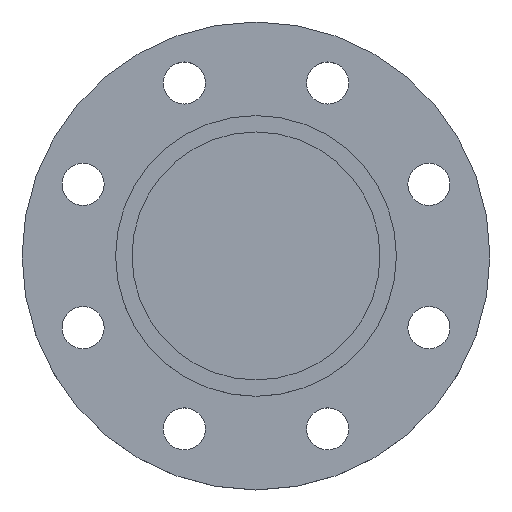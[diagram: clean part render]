
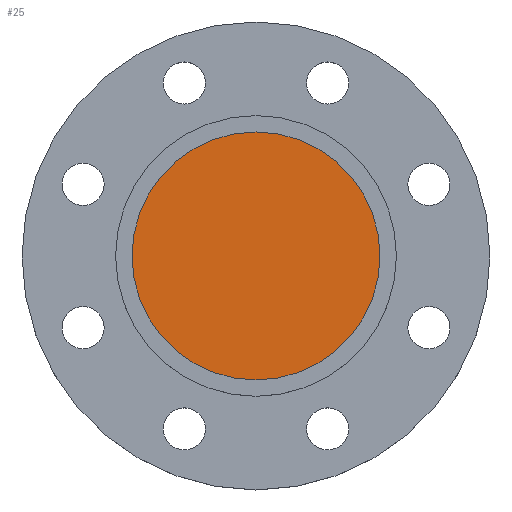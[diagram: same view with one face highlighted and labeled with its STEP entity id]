
A CAD part, top view. The second image highlights one B-rep face of the part: STEP entity #25.
In plain terms, the highlighted planar face has unit normal (0, 0, 1).
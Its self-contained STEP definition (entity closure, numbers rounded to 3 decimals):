
#4 = AXIS2_PLACEMENT_3D ( 'NONE', #826, #827, #830 ) ;
#25 = ADVANCED_FACE ( 'NONE', ( #823 ), #824, .T. ) ;
#53 = CIRCLE ( 'NONE', #56, 53. ) ;
#56 = AXIS2_PLACEMENT_3D ( 'NONE', #250, #249, #248 ) ;
#89 = CIRCLE ( 'NONE', #212, 53. ) ;
#142 = CARTESIAN_POINT ( 'NONE',  ( 53., 0., -4.5 ) ) ;
#173 = DIRECTION ( 'NONE',  ( -1., 0., 0. ) ) ;
#174 = DIRECTION ( 'NONE',  ( 0., 0., -1. ) ) ;
#175 = CARTESIAN_POINT ( 'NONE',  ( 0., 0., -4.5 ) ) ;
#212 = AXIS2_PLACEMENT_3D ( 'NONE', #175, #174, #173 ) ;
#248 = DIRECTION ( 'NONE',  ( -1., 0., 0. ) ) ;
#249 = DIRECTION ( 'NONE',  ( 0., 0., -1. ) ) ;
#250 = CARTESIAN_POINT ( 'NONE',  ( 0., 0., -4.5 ) ) ;
#263 = CARTESIAN_POINT ( 'NONE',  ( -53., 0., -4.5 ) ) ;
#562 = VERTEX_POINT ( 'NONE', #263 ) ;
#583 = EDGE_CURVE ( 'NONE', #789, #562, #53, .T. ) ;
#726 = EDGE_CURVE ( 'NONE', #562, #789, #89, .T. ) ;
#727 = ORIENTED_EDGE ( 'NONE', *, *, #726, .F. ) ;
#728 = ORIENTED_EDGE ( 'NONE', *, *, #583, .F. ) ;
#777 = EDGE_LOOP ( 'NONE', ( #727, #728 ) ) ;
#789 = VERTEX_POINT ( 'NONE', #142 ) ;
#823 = FACE_OUTER_BOUND ( 'NONE', #777, .T. ) ;
#824 = PLANE ( 'NONE',  #4 ) ;
#826 = CARTESIAN_POINT ( 'NONE',  ( 53., 0., -4.5 ) ) ;
#827 = DIRECTION ( 'NONE',  ( 0., 0., 1. ) ) ;
#830 = DIRECTION ( 'NONE',  ( 1., 0., 0. ) ) ;
